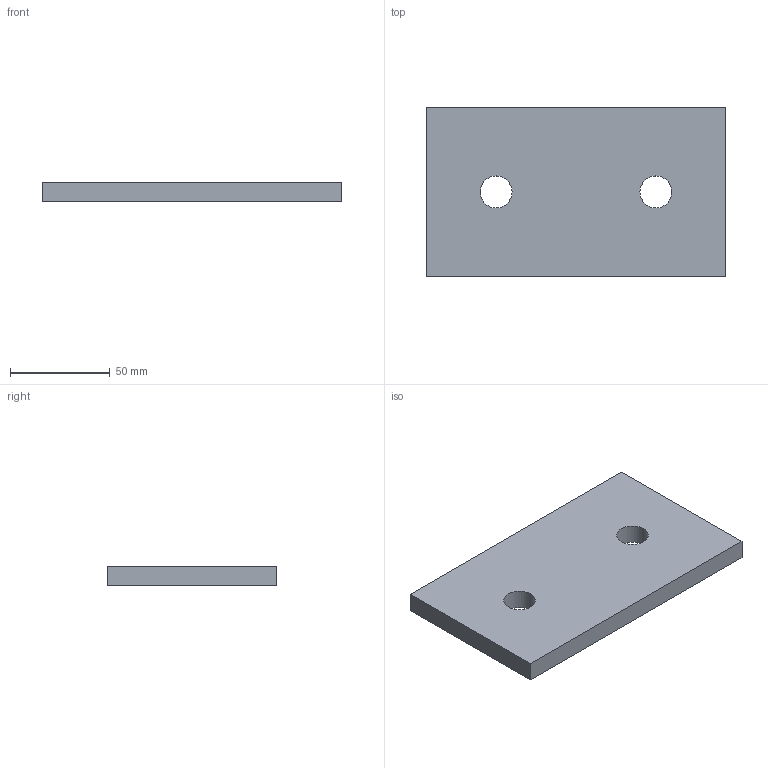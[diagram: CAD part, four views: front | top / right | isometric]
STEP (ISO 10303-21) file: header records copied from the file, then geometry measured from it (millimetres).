
FILE_DESCRIPTION(/* description */ (''),/* implementation_level */ '2;1');
FILE_NAME(/* name */ 'Pos101-Plaatwerk D= 10-S235JRG2-10st',/* time_stamp */ '2024-08-06T13:49:49+02:00',/* author */ (''),/* organization */ (''),/* preprocessor_version */ 'ST-DEVELOPER v16.5',/* originating_system */ 'HiCAD 2024 2901.2 Build 361',/* authorisation */ '');
FILE_SCHEMA (('AUTOMOTIVE_DESIGN { 1 0 10303 214 1 1 1 1 }'));
Length unit declared in the file: millimetre
Products named in the file (1): Pos101-Plaatwerk D= 10-S235JRG2-10st
Bounding box: 150 x 85 x 10 mm (x, y, z)
Volume: 123478.8 mm3; surface area: 30401.1 mm2
Topology: 1 solids, 1 shells, 8 faces, 20 edges, 14 vertices
Faces by surface type: plane 6, cylinder 2
Full cylindrical faces by diameter (mm): 16 x2
Entity records: 402 total; most frequent: DIRECTION 36, CARTESIAN_POINT 36, PRESENTATION_STYLE_ASSIGNMENT 33, COLOUR_RGB 33, DRAUGHTING_PRE_DEFINED_CURVE_FONT 32, CURVE_STYLE 32, OVER_RIDING_STYLED_ITEM 32, ORIENTED_EDGE 32
